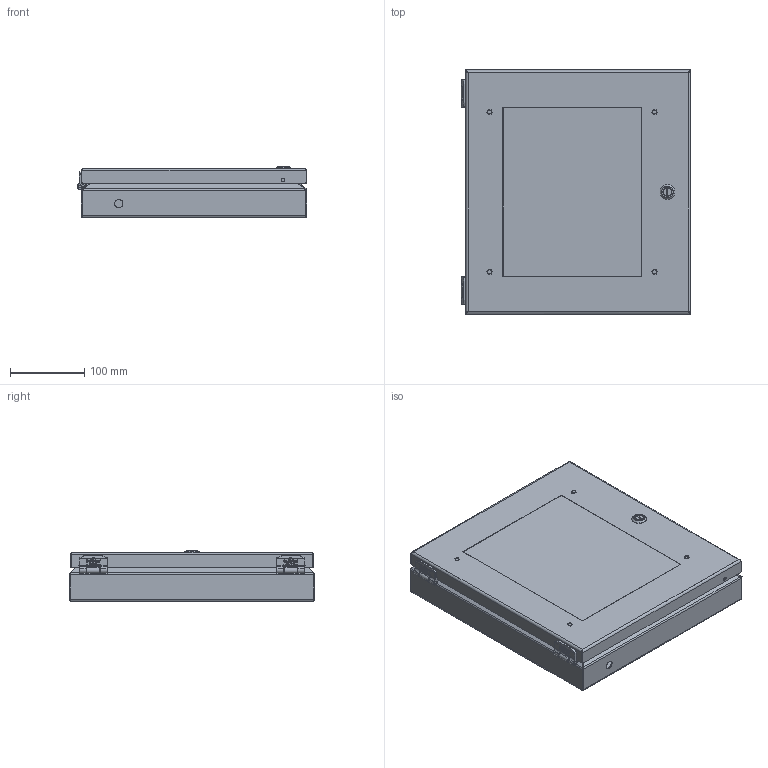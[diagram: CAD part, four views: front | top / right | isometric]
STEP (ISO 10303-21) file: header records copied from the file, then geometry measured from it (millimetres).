
FILE_DESCRIPTION((''),'2;1');
FILE_NAME('MODEL-409_ASM','2021-07-19T09:43:40',('chads'),('SAGINAW CONTROL & ENGINEERING'),'CREO PARAMETRIC BY PTC INC, 2017260','CREO PARAMETRIC BY PTC INC, 2017260','');
FILE_SCHEMA(('AUTOMOTIVE_DESIGN { 1 0 10303 214 1 1 1 1 }'));
Length unit declared in the file: inch
Products named in the file (24): MODEL-409-BDY; 112643-BOX-LEAF; 112643-BOX-LEAF-STUD; 112643-BOX_ASM; 112643-DOOR-LEAF; 112643-DOOR-LEAF-STUD; 112643-DOOR_ASM; 112643-PIN; 112643_ASM; 113152; MODEL-409-DR; 112987_SHAFT; 112987_INSERT; 112984; 112987_SCREW; 112987_NUT; 112987_ASM; MODEL-409-LEX; MODEL-409-GSKT-DR; 113591; 100011; 117899; 118662; MODEL-409_ASM
Assembly tree (37 placements, depth 4):
  MODEL-409_ASM
    MODEL-409-BDY
    112643_ASM  x2
      112643-BOX_ASM
        112643-BOX-LEAF
        112643-BOX-LEAF-STUD
      112643-DOOR_ASM
        112643-DOOR-LEAF
        112643-DOOR-LEAF-STUD
      112643-PIN
    113152  x4
    MODEL-409-DR
    112987_ASM
      112987_SHAFT
      112987_INSERT
      112984
      112987_SCREW
      112987_NUT
    MODEL-409-LEX
    MODEL-409-GSKT-DR
    113591  x2
    100011  x4
    117899  x4
    118662  x4
Bounding box: 310.4 x 330.2 x 69.4 mm (x, y, z)
Volume: 665979.2 mm3; surface area: 550529 mm2
Topology: 36 solids, 38 shells, 2916 faces, 7466 edges, 4642 vertices
Faces by surface type: plane 997, cylinder 876, bspline 785, cone 130, torus 108, sphere 20
Entity records: 101779 total; most frequent: CARTESIAN_POINT 54202, ORIENTED_EDGE 6792, DIRECTION 5753, EDGE_CURVE 3396, PRESENTATION_STYLE_ASSIGNMENT 3273, STYLED_ITEM 3273, CURVE_STYLE 2673, AXIS2_PLACEMENT_3D 2108
